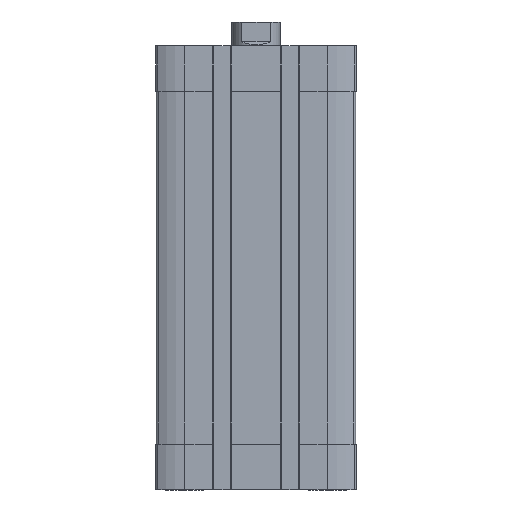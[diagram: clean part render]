
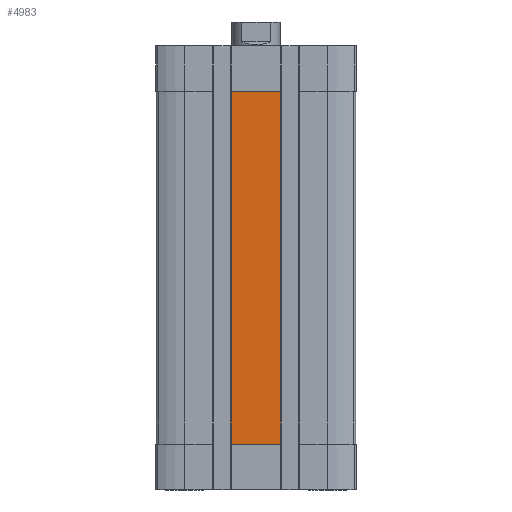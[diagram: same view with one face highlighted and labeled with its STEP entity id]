
A CAD part, front view. The second image highlights one B-rep face of the part: STEP entity #4983.
In plain terms, the highlighted planar face has unit normal (0, -1, 0).
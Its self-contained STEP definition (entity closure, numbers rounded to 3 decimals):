
#315 = CARTESIAN_POINT ( 'NONE',  ( 8., -32.5, -130. ) ) ;
#906 = LINE ( 'NONE', #4684, #13092 ) ;
#1011 = DIRECTION ( 'NONE',  ( -1., 0., 0. ) ) ;
#1100 = CARTESIAN_POINT ( 'NONE',  ( 0., -32.5, -15. ) ) ;
#1835 = VECTOR ( 'NONE', #1011, 1000. ) ;
#2171 = LINE ( 'NONE', #10814, #11610 ) ;
#2187 = EDGE_CURVE ( 'NONE', #2726, #10513, #2206, .T. ) ;
#2206 = LINE ( 'NONE', #1100, #1835 ) ;
#2302 = PLANE ( 'NONE',  #12489 ) ;
#2409 = EDGE_LOOP ( 'NONE', ( #2925, #9893, #4122, #6234 ) ) ;
#2726 = VERTEX_POINT ( 'NONE', #8189 ) ;
#2742 = CARTESIAN_POINT ( 'NONE',  ( -8., -32.5, -130. ) ) ;
#2885 = EDGE_CURVE ( 'NONE', #7425, #12392, #906, .T. ) ;
#2925 = ORIENTED_EDGE ( 'NONE', *, *, #2885, .T. ) ;
#3505 = EDGE_CURVE ( 'NONE', #12392, #2726, #2171, .T. ) ;
#4122 = ORIENTED_EDGE ( 'NONE', *, *, #2187, .T. ) ;
#4397 = DIRECTION ( 'NONE',  ( 1., 0., 0. ) ) ;
#4684 = CARTESIAN_POINT ( 'NONE',  ( -8., -32.5, -130. ) ) ;
#4983 = ADVANCED_FACE ( 'NONE', ( #11949 ), #2302, .T. ) ;
#5455 = CARTESIAN_POINT ( 'NONE',  ( -8., -32.5, -130. ) ) ;
#6234 = ORIENTED_EDGE ( 'NONE', *, *, #12085, .T. ) ;
#7425 = VERTEX_POINT ( 'NONE', #2742 ) ;
#8189 = CARTESIAN_POINT ( 'NONE',  ( 8., -32.5, -15. ) ) ;
#9117 = LINE ( 'NONE', #5455, #15210 ) ;
#9893 = ORIENTED_EDGE ( 'NONE', *, *, #3505, .T. ) ;
#10513 = VERTEX_POINT ( 'NONE', #12321 ) ;
#10726 = DIRECTION ( 'NONE',  ( 0., 0., -1. ) ) ;
#10762 = DIRECTION ( 'NONE',  ( 0., 0., 1. ) ) ;
#10814 = CARTESIAN_POINT ( 'NONE',  ( 8., -32.5, -130. ) ) ;
#11464 = DIRECTION ( 'NONE',  ( 0., 0., -1. ) ) ;
#11610 = VECTOR ( 'NONE', #10762, 1000. ) ;
#11672 = CARTESIAN_POINT ( 'NONE',  ( -8., -32.5, -130. ) ) ;
#11819 = DIRECTION ( 'NONE',  ( 0., -1., 0. ) ) ;
#11949 = FACE_OUTER_BOUND ( 'NONE', #2409, .T. ) ;
#12085 = EDGE_CURVE ( 'NONE', #10513, #7425, #9117, .T. ) ;
#12321 = CARTESIAN_POINT ( 'NONE',  ( -8., -32.5, -15. ) ) ;
#12392 = VERTEX_POINT ( 'NONE', #315 ) ;
#12489 = AXIS2_PLACEMENT_3D ( 'NONE', #11672, #11819, #10726 ) ;
#13092 = VECTOR ( 'NONE', #4397, 1000. ) ;
#15210 = VECTOR ( 'NONE', #11464, 1000. ) ;
